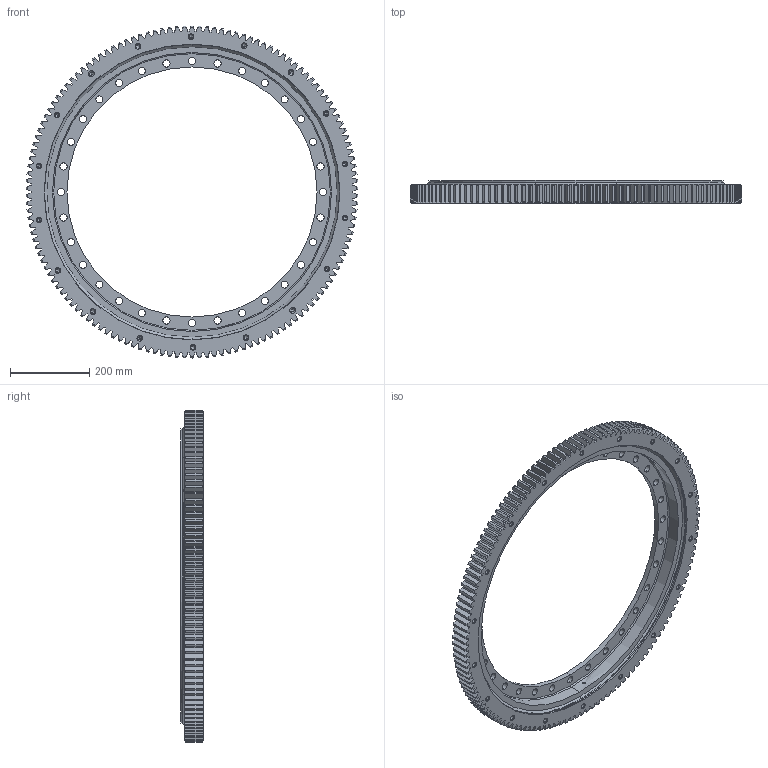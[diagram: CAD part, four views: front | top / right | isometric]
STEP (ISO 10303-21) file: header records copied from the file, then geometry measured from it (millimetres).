
FILE_DESCRIPTION (( 'STEP AP214' ), '1' );
FILE_NAME ('B1120-2-0839CA.STEP', '2022-11-24T06:28:41', ( '' ), ( '' ), 'SwSTEP 2.0', 'SolidWorks 2020', '' );
FILE_SCHEMA (( 'AUTOMOTIVE_DESIGN' ));
Length unit declared in the file: millimetre
Products named in the file (1): B1120-2-0839CA
Bounding box: 838.69 x 57 x 838.8 mm (x, y, z)
Volume: 7525743.7 mm3; surface area: 1225578.7 mm2
Topology: 4 solids, 4 shells, 1062 faces, 3058 edges, 1995 vertices
Faces by surface type: cone 358, bspline 276, cylinder 271, plane 155, torus 2
Entity records: 36280 total; most frequent: CARTESIAN_POINT 10632, ORIENTED_EDGE 6044, DIRECTION 4339, EDGE_CURVE 3022, VERTEX_POINT 1995, AXIS2_PLACEMENT_3D 1648, EDGE_LOOP 1167, B_SPLINE_CURVE_WITH_KNOTS 1118
